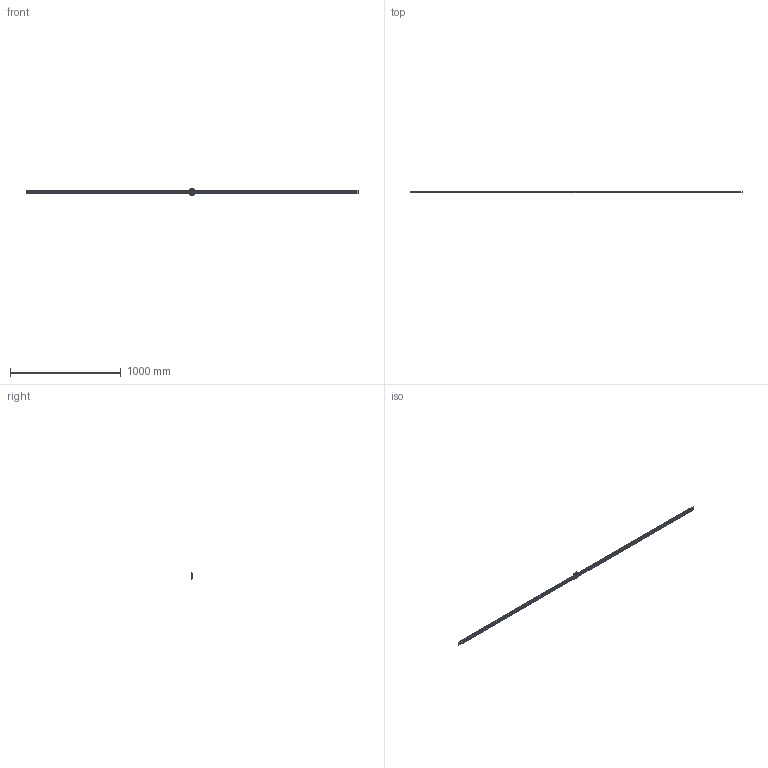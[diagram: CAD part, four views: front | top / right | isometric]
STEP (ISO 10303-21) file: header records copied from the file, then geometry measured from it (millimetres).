
FILE_DESCRIPTION(/* description */ ('STEP AP214'),/* implementation_level */ '2;1');
FILE_NAME(/* name */ 'HRW17CA1UU-3000LT_G20_0_PB107_1474-6_0_0_0_1',/* time_stamp */ '2023-09-26T15:03:31+02:00',/* author */ ('License CC BY-ND 4.0'),/* organization */ ('CADENAS'),/* preprocessor_version */ 'ST-DEVELOPER v19.3',/* originating_system */ 'PARTsolutions',/* authorisation */ ' ');
FILE_SCHEMA (('AUTOMOTIVE_DESIGN {1 0 10303 214 3 1 1}'));
Length unit declared in the file: millimetre
Products named in the file (4): HRW17CA1UU-3000LT_G20_0_PB107_1474-6_0_0_0_1; HRW-PB107_grease_nipple_joint; HRW17CAUUPB1071 Slide17-60; HRW17CA300020 Track
Assembly tree (3 placements, depth 2):
  HRW17CA1UU-3000LT_G20_0_PB107_1474-6_0_0_0_1
    HRW-PB107_grease_nipple_joint
    HRW17CAUUPB1071 Slide17-60
    HRW17CA300020 Track
Bounding box: 3000 x 17 x 60 mm (x, y, z)
Volume: 802763.4 mm3; surface area: 292337.5 mm2
Topology: 3 solids, 3 shells, 756 faces, 1702 edges, 1126 vertices
Faces by surface type: plane 388, cylinder 343, cone 20, torus 4, sphere 1
Full cylindrical faces by diameter (mm): 3 x3, 3.242 x2, 3.3 x4, 3.5 x1, 4.5 x159, 6 x2, 7.5 x150
Entity records: 20299 total; most frequent: DIRECTION 3582, CARTESIAN_POINT 3286, ORIENTED_EDGE 2708, EDGE_LOOP 1588, FACE_BOUND 1588, AXIS2_PLACEMENT_3D 1480, EDGE_CURVE 1354, VERTEX_POINT 1124
